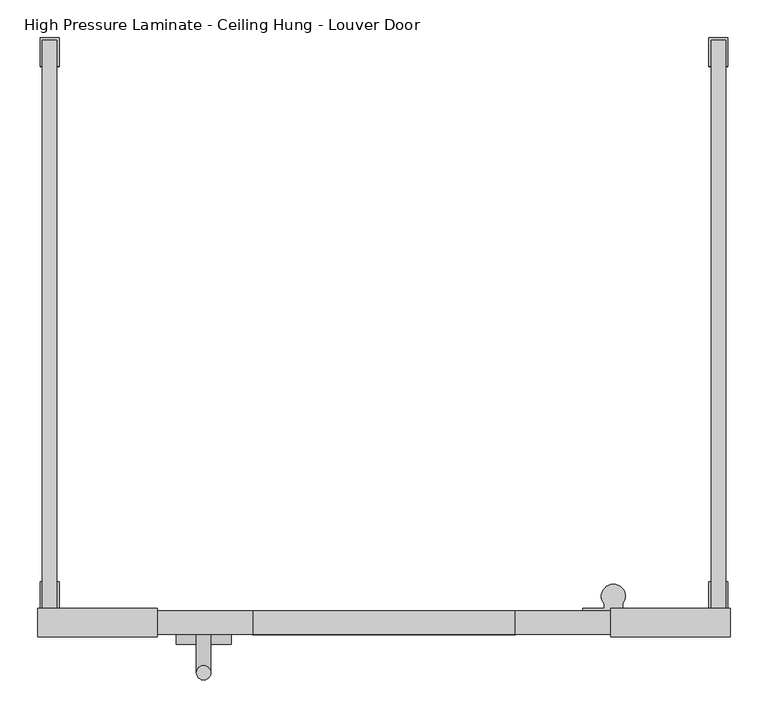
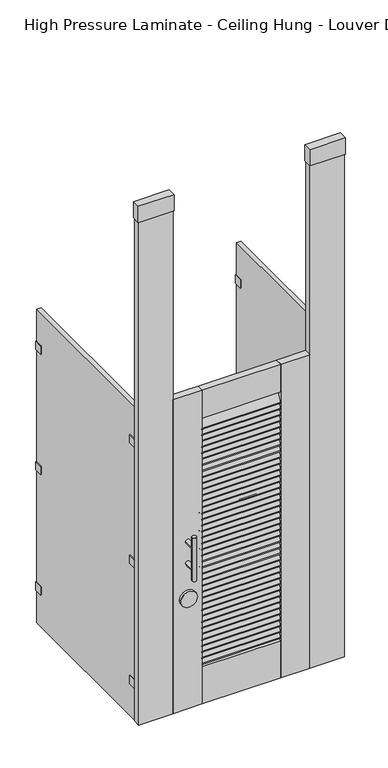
"""IFC4 building model written with IfcOpenShell, lengths in millimetres: proxy geometry, Toilet-Partition_Ironwood-Mfg_High-Pressure-Laminate : High Pressure Laminate - Ceiling Hung - Louver Door."""

from ifc_helpers import new_model, si_unit, point, frame, frame_2d, origin, place, context, project, spatial, polyline, circle_curve, ellipse_curve, trimmed, segment, composite_curve, outline, extrude, source, transform, mapped, element, save
from ifc_brep_helpers import plane_surface, cylinder_surface, advanced_brep


def high_pressure_laminate_ceiling_hung_louver_door_53e2b2da(model_context):
    return source(origin(), model_context, "Body", "SolidModel", [
        extrude(outline(polyline([(542.925, -796.925), (542.925, -758.825), (701.675, -758.825), (701.675, -796.925), (542.925, -796.925)])), frame((0.0, 0.0, 2667.0), z_axis=(0.0, 0.0, 1.0), x_axis=(1.0, 0.0, 0.0)), (0.0, 0.0, 1.0), 76.1999999),
        extrude(outline(polyline([(0.0, 152.4), (31.75, 152.4), (31.75, 0.0), (0.0, 0.0), (0.0, 152.4)])), frame((546.1, -762.0, 304.8), z_axis=(1.181277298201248e-12, 0.0, 1.0), x_axis=(0.0, -1.0, 0.0)), (0.0, 0.0, 1.0), 2362.2),
        extrude(outline(polyline([(-60.325, -796.925), (-219.075, -796.925), (-219.075, -758.825), (-60.325, -758.825), (-60.325, -796.925)])), frame((0.0, 0.0, 2667.0), z_axis=(0.0, 0.0, 1.0), x_axis=(1.0, 0.0, 0.0)), (0.0, 0.0, 1.0), 76.1999999),
        extrude(outline(polyline([(0.0, -152.4), (0.0, 0.0), (31.75, 0.0), (31.75, -152.4), (0.0, -152.4)])), frame((-63.5, -762.0, 304.8), z_axis=(-1.1812772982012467e-12, 0.0, 1.0), x_axis=(0.0, -1.0, 0.0)), (0.0, 0.0, 1.0), 2362.2),
        extrude(outline(composite_curve([segment(polyline([(-764.1333548, 1605.1687721), (-783.2892514, 1565.8933636)]), True, "CONTINUOUS"), segment(trimmed(circle_curve(frame_2d((-787.5697581, 1567.9811062)), 4.7625), [point((-783.2892514, 1565.8933636))], [point((-791.8502647, 1570.0688488))], False, "CARTESIAN"), True, "CONTINUOUS"), segment(polyline([(-791.8502647, 1570.0688488), (-772.6943681, 1609.3442573)]), True, "CONTINUOUS"), segment(trimmed(circle_curve(frame_2d((-768.4138614, 1607.2565147)), 4.7625), [point((-772.6943681, 1609.3442573))], [point((-764.1333548, 1605.1687721))], False, "CARTESIAN"), True, "CONTINUOUS")], self_intersect=False)), frame((66.675, 0.0, 0.0), z_axis=(1.0, 0.0, 0.0), x_axis=(0.0, 1.0, 0.0)), (0.0, 0.0, 1.0), 349.25),
        extrude(outline(composite_curve([segment(polyline([(-764.1333548, 1576.8525178), (-783.2892514, 1537.5771093)]), True, "CONTINUOUS"), segment(trimmed(circle_curve(frame_2d((-787.5697581, 1539.6648519)), 4.7625), [point((-783.2892514, 1537.5771093))], [point((-791.8502647, 1541.7525944))], False, "CARTESIAN"), True, "CONTINUOUS"), segment(polyline([(-791.8502647, 1541.7525944), (-772.6943681, 1581.0280029)]), True, "CONTINUOUS"), segment(trimmed(circle_curve(frame_2d((-768.4138614, 1578.9402604)), 4.7625), [point((-772.6943681, 1581.0280029))], [point((-764.1333548, 1576.8525178))], False, "CARTESIAN"), True, "CONTINUOUS")], self_intersect=False)), frame((66.675, 0.0, 0.0), z_axis=(1.0, 0.0, 0.0), x_axis=(0.0, 1.0, 0.0)), (0.0, 0.0, 1.0), 349.25),
        extrude(outline(composite_curve([segment(polyline([(-764.1333548, 1548.5362634), (-783.2892514, 1509.2608549)]), True, "CONTINUOUS"), segment(trimmed(circle_curve(frame_2d((-787.5697581, 1511.3485975)), 4.7625), [point((-783.2892514, 1509.2608549))], [point((-791.8502647, 1513.4363401))], False, "CARTESIAN"), True, "CONTINUOUS"), segment(polyline([(-791.8502647, 1513.4363401), (-772.6943681, 1552.7117486)]), True, "CONTINUOUS"), segment(trimmed(circle_curve(frame_2d((-768.4138614, 1550.624006)), 4.7625), [point((-772.6943681, 1552.7117486))], [point((-764.1333548, 1548.5362634))], False, "CARTESIAN"), True, "CONTINUOUS")], self_intersect=False)), frame((66.675, 0.0, 0.0), z_axis=(1.0, 0.0, 0.0), x_axis=(0.0, 1.0, 0.0)), (0.0, 0.0, 1.0), 349.25),
        extrude(outline(composite_curve([segment(polyline([(-764.1333548, 1520.220009), (-783.2892514, 1480.9446005)]), True, "CONTINUOUS"), segment(trimmed(circle_curve(frame_2d((-787.5697581, 1483.0323431)), 4.7625), [point((-783.2892514, 1480.9446005))], [point((-791.8502647, 1485.1200857))], False, "CARTESIAN"), True, "CONTINUOUS"), segment(polyline([(-791.8502647, 1485.1200857), (-772.6943681, 1524.3954942)]), True, "CONTINUOUS"), segment(trimmed(circle_curve(frame_2d((-768.4138614, 1522.3077516)), 4.7625), [point((-772.6943681, 1524.3954942))], [point((-764.1333548, 1520.220009))], False, "CARTESIAN"), True, "CONTINUOUS")], self_intersect=False)), frame((66.675, 0.0, 0.0), z_axis=(1.0, 0.0, 0.0), x_axis=(0.0, 1.0, 0.0)), (0.0, 0.0, 1.0), 349.25),
        extrude(outline(composite_curve([segment(polyline([(-764.1333548, 1491.9037547), (-783.2892514, 1452.6283462)]), True, "CONTINUOUS"), segment(trimmed(circle_curve(frame_2d((-787.5697581, 1454.7160888)), 4.7625), [point((-783.2892514, 1452.6283462))], [point((-791.8502647, 1456.8038313))], False, "CARTESIAN"), True, "CONTINUOUS"), segment(polyline([(-791.8502647, 1456.8038313), (-772.6943681, 1496.0792398)]), True, "CONTINUOUS"), segment(trimmed(circle_curve(frame_2d((-768.4138614, 1493.9914973)), 4.7625), [point((-772.6943681, 1496.0792398))], [point((-764.1333548, 1491.9037547))], False, "CARTESIAN"), True, "CONTINUOUS")], self_intersect=False)), frame((66.675, 0.0, 0.0), z_axis=(1.0, 0.0, 0.0), x_axis=(0.0, 1.0, 0.0)), (0.0, 0.0, 1.0), 349.25),
        extrude(outline(composite_curve([segment(polyline([(-764.1333548, 1463.5875003), (-783.2892514, 1424.3120918)]), True, "CONTINUOUS"), segment(trimmed(circle_curve(frame_2d((-787.5697581, 1426.3998344)), 4.7625), [point((-783.2892514, 1424.3120918))], [point((-791.8502647, 1428.487577))], False, "CARTESIAN"), True, "CONTINUOUS"), segment(polyline([(-791.8502647, 1428.487577), (-772.6943681, 1467.7629855)]), True, "CONTINUOUS"), segment(trimmed(circle_curve(frame_2d((-768.4138614, 1465.6752429)), 4.7625), [point((-772.6943681, 1467.7629855))], [point((-764.1333548, 1463.5875003))], False, "CARTESIAN"), True, "CONTINUOUS")], self_intersect=False)), frame((66.675, 0.0, 0.0), z_axis=(1.0, 0.0, 0.0), x_axis=(0.0, 1.0, 0.0)), (0.0, 0.0, 1.0), 349.25),
        extrude(outline(composite_curve([segment(polyline([(-764.1333548, 1435.2712459), (-783.2892514, 1395.9958374)]), True, "CONTINUOUS"), segment(trimmed(circle_curve(frame_2d((-787.5697581, 1398.08358)), 4.7625), [point((-783.2892514, 1395.9958374))], [point((-791.8502647, 1400.1713226))], False, "CARTESIAN"), True, "CONTINUOUS"), segment(polyline([(-791.8502647, 1400.1713226), (-772.6943681, 1439.4467311)]), True, "CONTINUOUS"), segment(trimmed(circle_curve(frame_2d((-768.4138614, 1437.3589885)), 4.7625), [point((-772.6943681, 1439.4467311))], [point((-764.1333548, 1435.2712459))], False, "CARTESIAN"), True, "CONTINUOUS")], self_intersect=False)), frame((66.675, 0.0, 0.0), z_axis=(1.0, 0.0, 0.0), x_axis=(0.0, 1.0, 0.0)), (0.0, 0.0, 1.0), 349.25),
        extrude(outline(composite_curve([segment(polyline([(-764.1333548, 1406.9549916), (-783.2892514, 1367.6795831)]), True, "CONTINUOUS"), segment(trimmed(circle_curve(frame_2d((-787.5697581, 1369.7673257)), 4.7625), [point((-783.2892514, 1367.6795831))], [point((-791.8502647, 1371.8550682))], False, "CARTESIAN"), True, "CONTINUOUS"), segment(polyline([(-791.8502647, 1371.8550682), (-772.6943681, 1411.1304767)]), True, "CONTINUOUS"), segment(trimmed(circle_curve(frame_2d((-768.4138614, 1409.0427342)), 4.7625), [point((-772.6943681, 1411.1304767))], [point((-764.1333548, 1406.9549916))], False, "CARTESIAN"), True, "CONTINUOUS")], self_intersect=False)), frame((66.675, 0.0, 0.0), z_axis=(1.0, 0.0, 0.0), x_axis=(0.0, 1.0, 0.0)), (0.0, 0.0, 1.0), 349.25),
        extrude(outline(composite_curve([segment(polyline([(-764.1333548, 1378.6387372), (-783.2892514, 1339.3633287)]), True, "CONTINUOUS"), segment(trimmed(circle_curve(frame_2d((-787.5697581, 1341.4510713)), 4.7625), [point((-783.2892514, 1339.3633287))], [point((-791.8502647, 1343.5388139))], False, "CARTESIAN"), True, "CONTINUOUS"), segment(polyline([(-791.8502647, 1343.5388139), (-772.6943681, 1382.8142224)]), True, "CONTINUOUS"), segment(trimmed(circle_curve(frame_2d((-768.4138614, 1380.7264798)), 4.7625), [point((-772.6943681, 1382.8142224))], [point((-764.1333548, 1378.6387372))], False, "CARTESIAN"), True, "CONTINUOUS")], self_intersect=False)), frame((66.675, 0.0, 0.0), z_axis=(1.0, 0.0, 0.0), x_axis=(0.0, 1.0, 0.0)), (0.0, 0.0, 1.0), 349.25),
        extrude(outline(composite_curve([segment(polyline([(-764.1333548, 1350.3224828), (-783.2892514, 1311.0470743)]), True, "CONTINUOUS"), segment(trimmed(circle_curve(frame_2d((-787.5697581, 1313.1348169)), 4.7625), [point((-783.2892514, 1311.0470743))], [point((-791.8502647, 1315.2225595))], False, "CARTESIAN"), True, "CONTINUOUS"), segment(polyline([(-791.8502647, 1315.2225595), (-772.6943681, 1354.497968)]), True, "CONTINUOUS"), segment(trimmed(circle_curve(frame_2d((-768.4138614, 1352.4102254)), 4.7625), [point((-772.6943681, 1354.497968))], [point((-764.1333548, 1350.3224828))], False, "CARTESIAN"), True, "CONTINUOUS")], self_intersect=False)), frame((66.675, 0.0, 0.0), z_axis=(1.0, 0.0, 0.0), x_axis=(0.0, 1.0, 0.0)), (0.0, 0.0, 1.0), 349.25),
        extrude(outline(composite_curve([segment(polyline([(-764.1333548, 1322.0062285), (-783.2892514, 1282.73082)]), True, "CONTINUOUS"), segment(trimmed(circle_curve(frame_2d((-787.5697581, 1284.8185626)), 4.7625), [point((-783.2892514, 1282.73082))], [point((-791.8502647, 1286.9063052))], False, "CARTESIAN"), True, "CONTINUOUS"), segment(polyline([(-791.8502647, 1286.9063052), (-772.6943681, 1326.1817137)]), True, "CONTINUOUS"), segment(trimmed(circle_curve(frame_2d((-768.4138614, 1324.0939711)), 4.7625), [point((-772.6943681, 1326.1817137))], [point((-764.1333548, 1322.0062285))], False, "CARTESIAN"), True, "CONTINUOUS")], self_intersect=False)), frame((66.675, 0.0, 0.0), z_axis=(1.0, 0.0, 0.0), x_axis=(0.0, 1.0, 0.0)), (0.0, 0.0, 1.0), 349.25),
        extrude(outline(composite_curve([segment(polyline([(-764.1333548, 1293.6899741), (-783.2892514, 1254.4145656)]), True, "CONTINUOUS"), segment(trimmed(circle_curve(frame_2d((-787.5697581, 1256.5023082)), 4.7625), [point((-783.2892514, 1254.4145656))], [point((-791.8502647, 1258.5900508))], False, "CARTESIAN"), True, "CONTINUOUS"), segment(polyline([(-791.8502647, 1258.5900508), (-772.6943681, 1297.8654593)]), True, "CONTINUOUS"), segment(trimmed(circle_curve(frame_2d((-768.4138614, 1295.7777167)), 4.7625), [point((-772.6943681, 1297.8654593))], [point((-764.1333548, 1293.6899741))], False, "CARTESIAN"), True, "CONTINUOUS")], self_intersect=False)), frame((66.675, 0.0, 0.0), z_axis=(1.0, 0.0, 0.0), x_axis=(0.0, 1.0, 0.0)), (0.0, 0.0, 1.0), 349.25),
        extrude(outline(composite_curve([segment(polyline([(-764.1333548, 1265.3737197), (-783.2892514, 1226.0983112)]), True, "CONTINUOUS"), segment(trimmed(circle_curve(frame_2d((-787.5697581, 1228.1860538)), 4.7625), [point((-783.2892514, 1226.0983112))], [point((-791.8502647, 1230.2737964))], False, "CARTESIAN"), True, "CONTINUOUS"), segment(polyline([(-791.8502647, 1230.2737964), (-772.6943681, 1269.5492049)]), True, "CONTINUOUS"), segment(trimmed(circle_curve(frame_2d((-768.4138614, 1267.4614623)), 4.7625), [point((-772.6943681, 1269.5492049))], [point((-764.1333548, 1265.3737197))], False, "CARTESIAN"), True, "CONTINUOUS")], self_intersect=False)), frame((66.675, 0.0, 0.0), z_axis=(1.0, 0.0, 0.0), x_axis=(0.0, 1.0, 0.0)), (0.0, 0.0, 1.0), 349.25),
        extrude(outline(composite_curve([segment(polyline([(-764.1333548, 1237.0574654), (-783.2892514, 1197.7820569)]), True, "CONTINUOUS"), segment(trimmed(circle_curve(frame_2d((-787.5697581, 1199.8697995)), 4.7625), [point((-783.2892514, 1197.7820569))], [point((-791.8502647, 1201.9575421))], False, "CARTESIAN"), True, "CONTINUOUS"), segment(polyline([(-791.8502647, 1201.9575421), (-772.6943681, 1241.2329506)]), True, "CONTINUOUS"), segment(trimmed(circle_curve(frame_2d((-768.4138614, 1239.145208)), 4.7625), [point((-772.6943681, 1241.2329506))], [point((-764.1333548, 1237.0574654))], False, "CARTESIAN"), True, "CONTINUOUS")], self_intersect=False)), frame((66.675, 0.0, 0.0), z_axis=(1.0, 0.0, 0.0), x_axis=(0.0, 1.0, 0.0)), (0.0, 0.0, 1.0), 349.25),
        extrude(outline(composite_curve([segment(polyline([(-764.1333548, 1208.741211), (-783.2892514, 1169.4658025)]), True, "CONTINUOUS"), segment(trimmed(circle_curve(frame_2d((-787.5697581, 1171.5535451)), 4.7625), [point((-783.2892514, 1169.4658025))], [point((-791.8502647, 1173.6412877))], False, "CARTESIAN"), True, "CONTINUOUS"), segment(polyline([(-791.8502647, 1173.6412877), (-772.6943681, 1212.9166962)]), True, "CONTINUOUS"), segment(trimmed(circle_curve(frame_2d((-768.4138614, 1210.8289536)), 4.7625), [point((-772.6943681, 1212.9166962))], [point((-764.1333548, 1208.741211))], False, "CARTESIAN"), True, "CONTINUOUS")], self_intersect=False)), frame((66.675, 0.0, 0.0), z_axis=(1.0, 0.0, 0.0), x_axis=(0.0, 1.0, 0.0)), (0.0, 0.0, 1.0), 349.25),
        extrude(outline(composite_curve([segment(polyline([(-764.1333548, 1180.4249567), (-783.2892514, 1141.1495482)]), True, "CONTINUOUS"), segment(trimmed(circle_curve(frame_2d((-787.5697581, 1143.2372907)), 4.7625), [point((-783.2892514, 1141.1495482))], [point((-791.8502647, 1145.3250333))], False, "CARTESIAN"), True, "CONTINUOUS"), segment(polyline([(-791.8502647, 1145.3250333), (-772.6943681, 1184.6004418)]), True, "CONTINUOUS"), segment(trimmed(circle_curve(frame_2d((-768.4138614, 1182.5126992)), 4.7625), [point((-772.6943681, 1184.6004418))], [point((-764.1333548, 1180.4249567))], False, "CARTESIAN"), True, "CONTINUOUS")], self_intersect=False)), frame((66.675, 0.0, 0.0), z_axis=(1.0, 0.0, 0.0), x_axis=(0.0, 1.0, 0.0)), (0.0, 0.0, 1.0), 349.25),
        extrude(outline(composite_curve([segment(polyline([(-764.1333548, 1152.1087023), (-783.2892514, 1112.8332938)]), True, "CONTINUOUS"), segment(trimmed(circle_curve(frame_2d((-787.5697581, 1114.9210364)), 4.7625), [point((-783.2892514, 1112.8332938))], [point((-791.8502647, 1117.008779))], False, "CARTESIAN"), True, "CONTINUOUS"), segment(polyline([(-791.8502647, 1117.008779), (-772.6943681, 1156.2841875)]), True, "CONTINUOUS"), segment(trimmed(circle_curve(frame_2d((-768.4138614, 1154.1964449)), 4.7625), [point((-772.6943681, 1156.2841875))], [point((-764.1333548, 1152.1087023))], False, "CARTESIAN"), True, "CONTINUOUS")], self_intersect=False)), frame((66.675, 0.0, 0.0), z_axis=(1.0, 0.0, 0.0), x_axis=(0.0, 1.0, 0.0)), (0.0, 0.0, 1.0), 349.25),
        extrude(outline(composite_curve([segment(polyline([(-764.1333548, 1123.7924479), (-783.2892514, 1084.5170394)]), True, "CONTINUOUS"), segment(trimmed(circle_curve(frame_2d((-787.5697581, 1086.604782)), 4.7625), [point((-783.2892514, 1084.5170394))], [point((-791.8502647, 1088.6925246))], False, "CARTESIAN"), True, "CONTINUOUS"), segment(polyline([(-791.8502647, 1088.6925246), (-772.6943681, 1127.9679331)]), True, "CONTINUOUS"), segment(trimmed(circle_curve(frame_2d((-768.4138614, 1125.8801905)), 4.7625), [point((-772.6943681, 1127.9679331))], [point((-764.1333548, 1123.7924479))], False, "CARTESIAN"), True, "CONTINUOUS")], self_intersect=False)), frame((66.675, 0.0, 0.0), z_axis=(1.0, 0.0, 0.0), x_axis=(0.0, 1.0, 0.0)), (0.0, 0.0, 1.0), 349.25),
        extrude(outline(composite_curve([segment(polyline([(-764.1333548, 1095.4761936), (-783.2892514, 1056.2007851)]), True, "CONTINUOUS"), segment(trimmed(circle_curve(frame_2d((-787.5697581, 1058.2885276)), 4.7625), [point((-783.2892514, 1056.2007851))], [point((-791.8502647, 1060.3762702))], False, "CARTESIAN"), True, "CONTINUOUS"), segment(polyline([(-791.8502647, 1060.3762702), (-772.6943681, 1099.6516787)]), True, "CONTINUOUS"), segment(trimmed(circle_curve(frame_2d((-768.4138614, 1097.5639361)), 4.7625), [point((-772.6943681, 1099.6516787))], [point((-764.1333548, 1095.4761936))], False, "CARTESIAN"), True, "CONTINUOUS")], self_intersect=False)), frame((66.675, 0.0, 0.0), z_axis=(1.0, 0.0, 0.0), x_axis=(0.0, 1.0, 0.0)), (0.0, 0.0, 1.0), 349.25),
        extrude(outline(composite_curve([segment(polyline([(-764.1333548, 1067.1599392), (-783.2892514, 1027.8845307)]), True, "CONTINUOUS"), segment(trimmed(circle_curve(frame_2d((-787.5697581, 1029.9722733)), 4.7625), [point((-783.2892514, 1027.8845307))], [point((-791.8502647, 1032.0600159))], False, "CARTESIAN"), True, "CONTINUOUS"), segment(polyline([(-791.8502647, 1032.0600159), (-772.6943681, 1071.3354244)]), True, "CONTINUOUS"), segment(trimmed(circle_curve(frame_2d((-768.4138614, 1069.2476818)), 4.7625), [point((-772.6943681, 1071.3354244))], [point((-764.1333548, 1067.1599392))], False, "CARTESIAN"), True, "CONTINUOUS")], self_intersect=False)), frame((66.675, 0.0, 0.0), z_axis=(1.0, 0.0, 0.0), x_axis=(0.0, 1.0, 0.0)), (0.0, 0.0, 1.0), 349.25),
        extrude(outline(composite_curve([segment(polyline([(-764.1333548, 1038.8436848), (-783.2892514, 999.5682763)]), True, "CONTINUOUS"), segment(trimmed(circle_curve(frame_2d((-787.5697581, 1001.6560189)), 4.7625), [point((-783.2892514, 999.5682763))], [point((-791.8502647, 1003.7437615))], False, "CARTESIAN"), True, "CONTINUOUS"), segment(polyline([(-791.8502647, 1003.7437615), (-772.6943681, 1043.01917)]), True, "CONTINUOUS"), segment(trimmed(circle_curve(frame_2d((-768.4138614, 1040.9314274)), 4.7625), [point((-772.6943681, 1043.01917))], [point((-764.1333548, 1038.8436848))], False, "CARTESIAN"), True, "CONTINUOUS")], self_intersect=False)), frame((66.675, 0.0, 0.0), z_axis=(1.0, 0.0, 0.0), x_axis=(0.0, 1.0, 0.0)), (0.0, 0.0, 1.0), 349.25),
        extrude(outline(composite_curve([segment(polyline([(-764.1333548, 1010.5274305), (-783.2892514, 971.252022)]), True, "CONTINUOUS"), segment(trimmed(circle_curve(frame_2d((-787.5697581, 973.3397645)), 4.7625), [point((-783.2892514, 971.252022))], [point((-791.8502647, 975.4275071))], False, "CARTESIAN"), True, "CONTINUOUS"), segment(polyline([(-791.8502647, 975.4275071), (-772.6943681, 1014.7029156)]), True, "CONTINUOUS"), segment(trimmed(circle_curve(frame_2d((-768.4138614, 1012.615173)), 4.7625), [point((-772.6943681, 1014.7029156))], [point((-764.1333548, 1010.5274305))], False, "CARTESIAN"), True, "CONTINUOUS")], self_intersect=False)), frame((66.675, 0.0, 0.0), z_axis=(1.0, 0.0, 0.0), x_axis=(0.0, 1.0, 0.0)), (0.0, 0.0, 1.0), 349.25),
        extrude(outline(composite_curve([segment(polyline([(-764.1333548, 982.2111761), (-783.2892514, 942.9357676)]), True, "CONTINUOUS"), segment(trimmed(circle_curve(frame_2d((-787.5697581, 945.0235102)), 4.7625), [point((-783.2892514, 942.9357676))], [point((-791.8502647, 947.1112528))], False, "CARTESIAN"), True, "CONTINUOUS"), segment(polyline([(-791.8502647, 947.1112528), (-772.6943681, 986.3866613)]), True, "CONTINUOUS"), segment(trimmed(circle_curve(frame_2d((-768.4138614, 984.2989187)), 4.7625), [point((-772.6943681, 986.3866613))], [point((-764.1333548, 982.2111761))], False, "CARTESIAN"), True, "CONTINUOUS")], self_intersect=False)), frame((66.675, 0.0, 0.0), z_axis=(1.0, 0.0, 0.0), x_axis=(0.0, 1.0, 0.0)), (0.0, 0.0, 1.0), 349.25),
        extrude(outline(composite_curve([segment(polyline([(-764.1333548, 953.8949217), (-783.2892514, 914.6195132)]), True, "CONTINUOUS"), segment(trimmed(circle_curve(frame_2d((-787.5697581, 916.7072558)), 4.7625), [point((-783.2892514, 914.6195132))], [point((-791.8502647, 918.7949984))], False, "CARTESIAN"), True, "CONTINUOUS"), segment(polyline([(-791.8502647, 918.7949984), (-772.6943681, 958.0704069)]), True, "CONTINUOUS"), segment(trimmed(circle_curve(frame_2d((-768.4138614, 955.9826643)), 4.7625), [point((-772.6943681, 958.0704069))], [point((-764.1333548, 953.8949217))], False, "CARTESIAN"), True, "CONTINUOUS")], self_intersect=False)), frame((66.675, 0.0, 0.0), z_axis=(1.0, 0.0, 0.0), x_axis=(0.0, 1.0, 0.0)), (0.0, 0.0, 1.0), 349.25),
        extrude(outline(composite_curve([segment(polyline([(-764.1333548, 925.5786674), (-783.2892514, 886.3032589)]), True, "CONTINUOUS"), segment(trimmed(circle_curve(frame_2d((-787.5697581, 888.3910014)), 4.7625), [point((-783.2892514, 886.3032589))], [point((-791.8502647, 890.478744))], False, "CARTESIAN"), True, "CONTINUOUS"), segment(polyline([(-791.8502647, 890.478744), (-772.6943681, 929.7541525)]), True, "CONTINUOUS"), segment(trimmed(circle_curve(frame_2d((-768.4138614, 927.6664099)), 4.7625), [point((-772.6943681, 929.7541525))], [point((-764.1333548, 925.5786674))], False, "CARTESIAN"), True, "CONTINUOUS")], self_intersect=False)), frame((66.675, 0.0, 0.0), z_axis=(1.0, 0.0, 0.0), x_axis=(0.0, 1.0, 0.0)), (0.0, 0.0, 1.0), 349.25),
        extrude(outline(composite_curve([segment(polyline([(-764.1333548, 897.262413), (-783.2892514, 857.9870045)]), True, "CONTINUOUS"), segment(trimmed(circle_curve(frame_2d((-787.5697581, 860.0747471)), 4.7625), [point((-783.2892514, 857.9870045))], [point((-791.8502647, 862.1624897))], False, "CARTESIAN"), True, "CONTINUOUS"), segment(polyline([(-791.8502647, 862.1624897), (-772.6943681, 901.4378982)]), True, "CONTINUOUS"), segment(trimmed(circle_curve(frame_2d((-768.4138614, 899.3501556)), 4.7625), [point((-772.6943681, 901.4378982))], [point((-764.1333548, 897.262413))], False, "CARTESIAN"), True, "CONTINUOUS")], self_intersect=False)), frame((66.675, 0.0, 0.0), z_axis=(1.0, 0.0, 0.0), x_axis=(0.0, 1.0, 0.0)), (0.0, 0.0, 1.0), 349.25),
        extrude(outline(composite_curve([segment(polyline([(-764.1333548, 868.9461586), (-783.2892514, 829.6707501)]), True, "CONTINUOUS"), segment(trimmed(circle_curve(frame_2d((-787.5697581, 831.7584927)), 4.7625), [point((-783.2892514, 829.6707501))], [point((-791.8502647, 833.8462353))], False, "CARTESIAN"), True, "CONTINUOUS"), segment(polyline([(-791.8502647, 833.8462353), (-772.6943681, 873.1216438)]), True, "CONTINUOUS"), segment(trimmed(circle_curve(frame_2d((-768.4138614, 871.0339012)), 4.7625), [point((-772.6943681, 873.1216438))], [point((-764.1333548, 868.9461586))], False, "CARTESIAN"), True, "CONTINUOUS")], self_intersect=False)), frame((66.675, 0.0, 0.0), z_axis=(1.0, 0.0, 0.0), x_axis=(0.0, 1.0, 0.0)), (0.0, 0.0, 1.0), 349.25),
        extrude(outline(composite_curve([segment(polyline([(-764.1333548, 840.6299043), (-783.2892514, 801.3544958)]), True, "CONTINUOUS"), segment(trimmed(circle_curve(frame_2d((-787.5697581, 803.4422384)), 4.7625), [point((-783.2892514, 801.3544958))], [point((-791.8502647, 805.5299809))], False, "CARTESIAN"), True, "CONTINUOUS"), segment(polyline([(-791.8502647, 805.5299809), (-772.6943681, 844.8053894)]), True, "CONTINUOUS"), segment(trimmed(circle_curve(frame_2d((-768.4138614, 842.7176469)), 4.7625), [point((-772.6943681, 844.8053894))], [point((-764.1333548, 840.6299043))], False, "CARTESIAN"), True, "CONTINUOUS")], self_intersect=False)), frame((66.675, 0.0, 0.0), z_axis=(1.0, 0.0, 0.0), x_axis=(0.0, 1.0, 0.0)), (0.0, 0.0, 1.0), 349.25),
        extrude(outline(composite_curve([segment(polyline([(-764.1333548, 812.3136499), (-783.2892514, 773.0382414)]), True, "CONTINUOUS"), segment(trimmed(circle_curve(frame_2d((-787.5697581, 775.125984)), 4.7625), [point((-783.2892514, 773.0382414))], [point((-791.8502647, 777.2137266))], False, "CARTESIAN"), True, "CONTINUOUS"), segment(polyline([(-791.8502647, 777.2137266), (-772.6943681, 816.4891351)]), True, "CONTINUOUS"), segment(trimmed(circle_curve(frame_2d((-768.4138614, 814.4013925)), 4.7625), [point((-772.6943681, 816.4891351))], [point((-764.1333548, 812.3136499))], False, "CARTESIAN"), True, "CONTINUOUS")], self_intersect=False)), frame((66.675, 0.0, 0.0), z_axis=(1.0, 0.0, 0.0), x_axis=(0.0, 1.0, 0.0)), (0.0, 0.0, 1.0), 349.25),
        extrude(outline(composite_curve([segment(polyline([(-764.1333548, 783.9973955), (-783.2892514, 744.721987)]), True, "CONTINUOUS"), segment(trimmed(circle_curve(frame_2d((-787.5697581, 746.8097296)), 4.7625), [point((-783.2892514, 744.721987))], [point((-791.8502647, 748.8974722))], False, "CARTESIAN"), True, "CONTINUOUS"), segment(polyline([(-791.8502647, 748.8974722), (-772.6943681, 788.1728807)]), True, "CONTINUOUS"), segment(trimmed(circle_curve(frame_2d((-768.4138614, 786.0851381)), 4.7625), [point((-772.6943681, 788.1728807))], [point((-764.1333548, 783.9973955))], False, "CARTESIAN"), True, "CONTINUOUS")], self_intersect=False)), frame((66.675, 0.0, 0.0), z_axis=(1.0, 0.0, 0.0), x_axis=(0.0, 1.0, 0.0)), (0.0, 0.0, 1.0), 349.25),
        extrude(outline(composite_curve([segment(polyline([(-764.1333548, 755.6811412), (-783.2892514, 716.4057327)]), True, "CONTINUOUS"), segment(trimmed(circle_curve(frame_2d((-787.5697581, 718.4934753)), 4.7625), [point((-783.2892514, 716.4057327))], [point((-791.8502647, 720.5812178))], False, "CARTESIAN"), True, "CONTINUOUS"), segment(polyline([(-791.8502647, 720.5812178), (-772.6943681, 759.8566263)]), True, "CONTINUOUS"), segment(trimmed(circle_curve(frame_2d((-768.4138614, 757.7688838)), 4.7625), [point((-772.6943681, 759.8566263))], [point((-764.1333548, 755.6811412))], False, "CARTESIAN"), True, "CONTINUOUS")], self_intersect=False)), frame((66.675, 0.0, 0.0), z_axis=(1.0, 0.0, 0.0), x_axis=(0.0, 1.0, 0.0)), (0.0, 0.0, 1.0), 349.25),
        extrude(outline(composite_curve([segment(polyline([(-764.1333548, 727.3648868), (-783.2892514, 688.0894783)]), True, "CONTINUOUS"), segment(trimmed(circle_curve(frame_2d((-787.5697581, 690.1772209)), 4.7625), [point((-783.2892514, 688.0894783))], [point((-791.8502647, 692.2649635))], False, "CARTESIAN"), True, "CONTINUOUS"), segment(polyline([(-791.8502647, 692.2649635), (-772.6943681, 731.540372)]), True, "CONTINUOUS"), segment(trimmed(circle_curve(frame_2d((-768.4138614, 729.4526294)), 4.7625), [point((-772.6943681, 731.540372))], [point((-764.1333548, 727.3648868))], False, "CARTESIAN"), True, "CONTINUOUS")], self_intersect=False)), frame((66.675, 0.0, 0.0), z_axis=(1.0, 0.0, 0.0), x_axis=(0.0, 1.0, 0.0)), (0.0, 0.0, 1.0), 349.25),
        extrude(outline(composite_curve([segment(polyline([(-764.1333548, 699.0486324), (-783.2892514, 659.7732239)]), True, "CONTINUOUS"), segment(trimmed(circle_curve(frame_2d((-787.5697581, 661.8609665)), 4.7625), [point((-783.2892514, 659.7732239))], [point((-791.8502647, 663.9487091))], False, "CARTESIAN"), True, "CONTINUOUS"), segment(polyline([(-791.8502647, 663.9487091), (-772.6943681, 703.2241176)]), True, "CONTINUOUS"), segment(trimmed(circle_curve(frame_2d((-768.4138614, 701.136375)), 4.7625), [point((-772.6943681, 703.2241176))], [point((-764.1333548, 699.0486324))], False, "CARTESIAN"), True, "CONTINUOUS")], self_intersect=False)), frame((66.675, 0.0, 0.0), z_axis=(1.0, 0.0, 0.0), x_axis=(0.0, 1.0, 0.0)), (0.0, 0.0, 1.0), 349.25),
        extrude(outline(composite_curve([segment(polyline([(-764.1333548, 670.7323781), (-783.2892514, 631.4569696)]), True, "CONTINUOUS"), segment(trimmed(circle_curve(frame_2d((-787.5697581, 633.5447122)), 4.7625), [point((-783.2892514, 631.4569696))], [point((-791.8502647, 635.6324547))], False, "CARTESIAN"), True, "CONTINUOUS"), segment(polyline([(-791.8502647, 635.6324547), (-772.6943681, 674.9078632)]), True, "CONTINUOUS"), segment(trimmed(circle_curve(frame_2d((-768.4138614, 672.8201207)), 4.7625), [point((-772.6943681, 674.9078632))], [point((-764.1333548, 670.7323781))], False, "CARTESIAN"), True, "CONTINUOUS")], self_intersect=False)), frame((66.675, 0.0, 0.0), z_axis=(1.0, 0.0, 0.0), x_axis=(0.0, 1.0, 0.0)), (0.0, 0.0, 1.0), 349.25),
        extrude(outline(composite_curve([segment(polyline([(-764.1333548, 642.4161237), (-783.2892514, 603.1407152)]), True, "CONTINUOUS"), segment(trimmed(circle_curve(frame_2d((-787.5697581, 605.2284578)), 4.7625), [point((-783.2892514, 603.1407152))], [point((-791.8502647, 607.3162004))], False, "CARTESIAN"), True, "CONTINUOUS"), segment(polyline([(-791.8502647, 607.3162004), (-772.6943681, 646.5916089)]), True, "CONTINUOUS"), segment(trimmed(circle_curve(frame_2d((-768.4138614, 644.5038663)), 4.7625), [point((-772.6943681, 646.5916089))], [point((-764.1333548, 642.4161237))], False, "CARTESIAN"), True, "CONTINUOUS")], self_intersect=False)), frame((66.675, 0.0, 0.0), z_axis=(1.0, 0.0, 0.0), x_axis=(0.0, 1.0, 0.0)), (0.0, 0.0, 1.0), 349.25),
        extrude(outline(composite_curve([segment(polyline([(-764.1333548, 614.0998693), (-783.2892514, 574.8244608)]), True, "CONTINUOUS"), segment(trimmed(circle_curve(frame_2d((-787.5697581, 576.9122034)), 4.7625), [point((-783.2892514, 574.8244608))], [point((-791.8502647, 578.999946))], False, "CARTESIAN"), True, "CONTINUOUS"), segment(polyline([(-791.8502647, 578.999946), (-772.6943681, 618.2753545)]), True, "CONTINUOUS"), segment(trimmed(circle_curve(frame_2d((-768.4138614, 616.1876119)), 4.7625), [point((-772.6943681, 618.2753545))], [point((-764.1333548, 614.0998693))], False, "CARTESIAN"), True, "CONTINUOUS")], self_intersect=False)), frame((66.675, 0.0, 0.0), z_axis=(1.0, 0.0, 0.0), x_axis=(0.0, 1.0, 0.0)), (0.0, 0.0, 1.0), 349.25),
        extrude(outline(composite_curve([segment(polyline([(-764.1333548, 585.783615), (-783.2892514, 546.5082065)]), True, "CONTINUOUS"), segment(trimmed(circle_curve(frame_2d((-787.5697581, 548.5959491)), 4.7625), [point((-783.2892514, 546.5082065))], [point((-791.8502647, 550.6836917))], False, "CARTESIAN"), True, "CONTINUOUS"), segment(polyline([(-791.8502647, 550.6836917), (-772.6943681, 589.9591001)]), True, "CONTINUOUS"), segment(trimmed(circle_curve(frame_2d((-768.4138614, 587.8713576)), 4.7625), [point((-772.6943681, 589.9591001))], [point((-764.1333548, 585.783615))], False, "CARTESIAN"), True, "CONTINUOUS")], self_intersect=False)), frame((66.675, 0.0, 0.0), z_axis=(1.0, 0.0, 0.0), x_axis=(0.0, 1.0, 0.0)), (0.0, 0.0, 1.0), 349.25),
        extrude(outline(composite_curve([segment(polyline([(-764.1333548, 557.4673606), (-783.2892514, 518.1919521)]), True, "CONTINUOUS"), segment(trimmed(circle_curve(frame_2d((-787.5697581, 520.2796947)), 4.7625), [point((-783.2892514, 518.1919521))], [point((-791.8502647, 522.3674373))], False, "CARTESIAN"), True, "CONTINUOUS"), segment(polyline([(-791.8502647, 522.3674373), (-772.6943681, 561.6428458)]), True, "CONTINUOUS"), segment(trimmed(circle_curve(frame_2d((-768.4138614, 559.5551032)), 4.7625), [point((-772.6943681, 561.6428458))], [point((-764.1333548, 557.4673606))], False, "CARTESIAN"), True, "CONTINUOUS")], self_intersect=False)), frame((66.675, 0.0, 0.0), z_axis=(1.0, 0.0, 0.0), x_axis=(0.0, 1.0, 0.0)), (0.0, 0.0, 1.0), 349.25),
        extrude(outline(composite_curve([segment(polyline([(-764.1333548, 1633.4850265), (-783.2892514, 1594.209618)]), True, "CONTINUOUS"), segment(trimmed(circle_curve(frame_2d((-787.5697581, 1596.2973606)), 4.7625), [point((-783.2892514, 1594.209618))], [point((-791.8502647, 1598.3851032))], False, "CARTESIAN"), True, "CONTINUOUS"), segment(polyline([(-791.8502647, 1598.3851032), (-772.6943681, 1637.6605117)]), True, "CONTINUOUS"), segment(trimmed(circle_curve(frame_2d((-768.4138614, 1635.5727691)), 4.7625), [point((-772.6943681, 1637.6605117))], [point((-764.1333548, 1633.4850265))], False, "CARTESIAN"), True, "CONTINUOUS")], self_intersect=False)), frame((66.675, 0.0, 0.0), z_axis=(1.0, 0.0, 0.0), x_axis=(0.0, 1.0, 0.0)), (0.0, 0.0, 1.0), 349.25),
        extrude(outline(composite_curve([segment(polyline([(-764.1333548, 529.1511062), (-783.2892514, 489.8756977)]), True, "CONTINUOUS"), segment(trimmed(circle_curve(frame_2d((-787.5697581, 491.9634403)), 4.7625), [point((-783.2892514, 489.8756977))], [point((-791.8502647, 494.0511829))], False, "CARTESIAN"), True, "CONTINUOUS"), segment(polyline([(-791.8502647, 494.0511829), (-772.6943681, 533.3265914)]), True, "CONTINUOUS"), segment(trimmed(circle_curve(frame_2d((-768.4138614, 531.2388488)), 4.7625), [point((-772.6943681, 533.3265914))], [point((-764.1333548, 529.1511062))], False, "CARTESIAN"), True, "CONTINUOUS")], self_intersect=False)), frame((66.675, 0.0, 0.0), z_axis=(1.0, 0.0, 0.0), x_axis=(0.0, 1.0, 0.0)), (0.0, 0.0, 1.0), 349.25),
        extrude(outline(polyline([(66.675, -762.0), (66.675, -793.75), (-63.5, -793.75), (-63.5, -762.0), (66.675, -762.0)])), frame((0.0, 0.0, 304.8), z_axis=(0.0, 0.0, 1.0), x_axis=(1.0, 0.0, 0.0)), (0.0, 0.0, 1.0), 1473.2),
        extrude(outline(polyline([(415.925, -762.0), (546.1, -762.0), (546.1, -793.75), (415.925, -793.75), (415.925, -762.0)])), frame((0.0, 0.0, 304.8), z_axis=(0.0, 0.0, 1.0), x_axis=(1.0, 0.0, 0.0)), (0.0, 0.0, 1.0), 1473.2),
        extrude(outline(polyline([(415.925, -762.0), (415.925, -793.75), (66.675, -793.75), (66.675, -762.0), (415.925, -762.0)])), frame((0.0, 0.0, 1647.825), z_axis=(0.0, 0.0, 1.0), x_axis=(1.0, 0.0, 0.0)), (0.0, 0.0, 1.0), 130.175),
        extrude(outline(polyline([(415.925, -762.0), (415.925, -793.75), (66.675, -793.75), (66.675, -762.0), (415.925, -762.0)])), frame((0.0, 0.0, 304.8), z_axis=(0.0, 0.0, 1.0), x_axis=(1.0, 0.0, 0.0)), (0.0, 0.0, 1.0), 174.625),
        extrude(outline(composite_curve([segment(trimmed(circle_curve(frame_2d((827.0875, 1.5875)), 36.5125), [point((827.0875, -34.925))], [point((827.0875, 38.1))], False, "CARTESIAN"), True, "CONTINUOUS"), segment(trimmed(circle_curve(frame_2d((827.0875, 1.5875)), 36.5125), [point((827.0875, 38.1))], [point((827.0875, -34.925))], False, "CARTESIAN"), True, "CONTINUOUS")], self_intersect=False)), frame((0.0, -806.45, 0.0), z_axis=(0.0, 1.0, 0.0), x_axis=(0.0, 0.0, 1.0)), (0.0, 0.0, 1.0), 12.7),
        advanced_brep(
        [(-7.9375, -793.75, 1092.2), (11.1125, -793.75, 1092.2), (-7.9375, -793.75, 990.6), (11.1125, -793.75, 990.6), (11.1125, -844.55, 1092.2), (-7.9375, -844.55, 1092.2), (11.1125, -844.55, 990.6), (-7.9375, -844.55, 990.6), (-7.9375, -844.55, 1143.0), (11.1125, -844.55, 1143.0), (-7.9375, -844.55, 939.8), (11.1125, -844.55, 939.8)],
        [
            (0, 1, circle_curve(frame((1.5875, -793.75, 1092.2), z_axis=(0.0, 1.0, 0.0), x_axis=(1.0, 0.0, 0.0)), 9.525)),
            (1, 0, circle_curve(frame((1.5875, -793.75, 1092.2), z_axis=(0.0, 1.0, 0.0), x_axis=(1.0, 0.0, 0.0)), 9.525)),
            (2, 3, circle_curve(frame((1.5875, -793.75, 990.6), z_axis=(0.0, 1.0, 0.0), x_axis=(1.0, 0.0, 0.0)), 9.525)),
            (3, 2, circle_curve(frame((1.5875, -793.75, 990.6), z_axis=(0.0, 1.0, 0.0), x_axis=(1.0, 0.0, 0.0)), 9.525)),
            (1, 4),
            (4, 5, ellipse_curve(frame((1.5875, -844.55, 1092.2), z_axis=(0.0, 0.7071067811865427, 0.7071067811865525), x_axis=(0.0, -0.7071067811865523, 0.7071067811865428)), 13.4703842, 9.525)),
            (5, 0),
            (5, 4, ellipse_curve(frame((1.5875, -844.55, 1092.2), z_axis=(0.0, 0.7071067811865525, -0.7071067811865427), x_axis=(0.0, -0.7071067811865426, -0.7071067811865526)), 13.4703842, 9.525)),
            (3, 6),
            (6, 7, ellipse_curve(frame((1.5875, -844.55, 990.6), z_axis=(0.0, 0.7071067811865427, 0.7071067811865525), x_axis=(0.0, -0.7071067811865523, 0.7071067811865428)), 13.4703842, 9.525)),
            (7, 2),
            (7, 6, ellipse_curve(frame((1.5875, -844.55, 990.6), z_axis=(0.0, 0.7071067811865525, -0.7071067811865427), x_axis=(0.0, -0.7071067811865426, -0.7071067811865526)), 13.4703842, 9.525)),
            (8, 9, circle_curve(frame((1.5875, -844.55, 1143.0), z_axis=(0.0, 0.0, 1.0), x_axis=(1.0, 0.0, 0.0)), 9.525)),
            (9, 8, circle_curve(frame((1.5875, -844.55, 1143.0), z_axis=(0.0, 0.0, 1.0), x_axis=(1.0, 0.0, 0.0)), 9.525)),
            (10, 11, circle_curve(frame((1.5875, -844.55, 939.8), z_axis=(0.0, 0.0, -1.0), x_axis=(1.0, 0.0, 0.0)), 9.525)),
            (11, 10, circle_curve(frame((1.5875, -844.55, 939.8), z_axis=(0.0, 0.0, -1.0), x_axis=(1.0, 0.0, 0.0)), 9.525)),
            (8, 5),
            (5, 7),
            (7, 10),
            (11, 6),
            (6, 4),
            (4, 9),
        ],
        [
            plane_surface(frame((11.1125, -793.75, 1092.2), z_axis=(0.0, 1.0, 0.0), x_axis=(0.0, 0.0, -1.0))),
            cylinder_surface(frame((1.5875, -793.75, 1092.2), z_axis=(0.0, -1.0, 0.0), x_axis=(1.0, 0.0, 0.0)), 9.525),
            cylinder_surface(frame((1.5875, -793.75, 990.6), z_axis=(0.0, -1.0, 0.0), x_axis=(1.0, 0.0, 0.0)), 9.525),
            plane_surface(frame((11.1125, -844.55, 1143.0), z_axis=(0.0, 0.0, 1.0), x_axis=(0.0, 1.0, 0.0))),
            plane_surface(frame((11.1125, -844.55, 939.8), z_axis=(0.0, 0.0, -1.0), x_axis=(0.0, -1.0, 0.0))),
            cylinder_surface(frame((1.5875, -844.55, 939.8), z_axis=(0.0, 0.0, 1.0), x_axis=(1.0, 0.0, 0.0)), 9.525),
        ],
        [
            (0, [[1, 2]]),
            (0, [[3, 4]]),
            (1, [[-2, 5, 6, 7]]),
            (1, [[-1, -7, 8, -5]]),
            (2, [[-4, 9, 10, 11]]),
            (2, [[-3, -11, 12, -9]]),
            (3, [[13, 14]]),
            (4, [[15, 16]]),
            (5, [[-13, 17, 18, 19, -16, 20, 21, 22]]),
            (5, [[-14, -22, -8, -17]]),
            (5, [[-15, -19, -10, -20]]),
            (5, [[-18, -6, -21, -12]]),
        ],
    ),
        extrude(outline(composite_curve([segment(polyline([(581.3737081, -762.0), (505.1737081, -762.0), (505.1737081, -758.825), (533.7487081, -758.825), (533.7487081, -752.9581331)]), True, "CONTINUOUS"), segment(trimmed(circle_curve(frame_2d((546.1, -742.8902139)), 15.9347861), [point((533.7487081, -752.9581331))], [point((558.4512919, -752.9581331))], False, "CARTESIAN"), True, "CONTINUOUS"), segment(polyline([(558.4512919, -752.9581331), (558.4512919, -758.825), (581.3737081, -758.825), (581.3737081, -762.0)]), True, "CONTINUOUS")], self_intersect=False)), frame((0.0, 0.0, 1574.8), z_axis=(0.0, 0.0, 1.0), x_axis=(1.0, 0.0, 0.0)), (0.0, 0.0, 1.0), 63.5),
        extrude(outline(composite_curve([segment(polyline([(581.3737081, -762.0), (505.1737081, -762.0), (505.1737081, -758.825), (533.7487081, -758.825), (533.7487081, -752.9581331)]), True, "CONTINUOUS"), segment(trimmed(circle_curve(frame_2d((546.1, -742.8902139)), 15.9347861), [point((533.7487081, -752.9581331))], [point((558.4512919, -752.9581331))], False, "CARTESIAN"), True, "CONTINUOUS"), segment(polyline([(558.4512919, -752.9581331), (558.4512919, -758.825), (581.3737081, -758.825), (581.3737081, -762.0)]), True, "CONTINUOUS")], self_intersect=False)), frame((0.0, 0.0, 1009.6500001), z_axis=(0.0, 0.0, 1.0), x_axis=(1.0, 0.0, 0.0)), (0.0, 0.0, 1.0), 63.5),
        extrude(outline(composite_curve([segment(polyline([(581.3737081, -762.0), (505.1737081, -762.0), (505.1737081, -758.825), (533.7487081, -758.825), (533.7487081, -752.9581331)]), True, "CONTINUOUS"), segment(trimmed(circle_curve(frame_2d((546.1, -742.8902139)), 15.9347861), [point((533.7487081, -752.9581331))], [point((558.4512919, -752.9581331))], False, "CARTESIAN"), True, "CONTINUOUS"), segment(polyline([(558.4512919, -752.9581331), (558.4512919, -758.825), (581.3737081, -758.825), (581.3737081, -762.0)]), True, "CONTINUOUS")], self_intersect=False)), frame((0.0, 0.0, 444.5), z_axis=(0.0, 0.0, 1.0), x_axis=(1.0, 0.0, 0.0)), (0.0, 0.0, 1.0), 63.5),
        extrude(outline(polyline([(676.148, -723.9), (676.148, -758.825), (695.198, -758.825), (695.198, -723.9), (698.373, -723.9), (698.373, -762.0), (672.973, -762.0), (672.973, -723.9), (676.148, -723.9)])), frame((0.0, 0.0, 1587.8188137), z_axis=(0.0, 0.0, 1.0), x_axis=(1.0, 0.0, 0.0)), (0.0, 0.0, 1.0), 38.1),
        extrude(outline(polyline([(676.148, -38.1), (672.973, -38.1), (672.973, 0.0), (698.373, 0.0), (698.373, -38.1), (695.198, -38.1), (695.198, -3.175), (676.148, -3.175), (676.148, -38.1)])), frame((0.0, 0.0, 1587.8188137), z_axis=(0.0, 0.0, 1.0), x_axis=(1.0, 0.0, 0.0)), (0.0, 0.0, 1.0), 38.1),
        extrude(outline(polyline([(676.148, -723.9), (676.148, -758.825), (695.198, -758.825), (695.198, -723.9), (698.373, -723.9), (698.373, -762.0), (672.973, -762.0), (672.973, -723.9), (676.148, -723.9)])), frame((0.0, 0.0, 1022.35), z_axis=(0.0, 0.0, 1.0), x_axis=(1.0, 0.0, 0.0)), (0.0, 0.0, 1.0), 38.1),
        extrude(outline(polyline([(676.148, -38.1), (672.973, -38.1), (672.973, 0.0), (698.373, 0.0), (698.373, -38.1), (695.198, -38.1), (695.198, -3.175), (676.148, -3.175), (676.148, -38.1)])), frame((0.0, 0.0, 1022.35), z_axis=(0.0, 0.0, 1.0), x_axis=(1.0, 0.0, 0.0)), (0.0, 0.0, 1.0), 38.1),
        extrude(outline(polyline([(676.148, -723.9), (676.148, -758.825), (695.198, -758.825), (695.198, -723.9), (698.373, -723.9), (698.373, -762.0), (672.973, -762.0), (672.973, -723.9), (676.148, -723.9)])), frame((0.0, 0.0, 457.2), z_axis=(0.0, 0.0, 1.0), x_axis=(1.0, 0.0, 0.0)), (0.0, 0.0, 1.0), 38.1),
        extrude(outline(polyline([(676.148, -38.1), (672.973, -38.1), (672.973, 0.0), (698.373, 0.0), (698.373, -38.1), (695.198, -38.1), (695.198, -3.175), (676.148, -3.175), (676.148, -38.1)])), frame((0.0, 0.0, 457.2), z_axis=(0.0, 0.0, 1.0), x_axis=(1.0, 0.0, 0.0)), (0.0, 0.0, 1.0), 38.1),
        extrude(outline(polyline([(-212.598, -723.9), (-212.598, -758.825), (-193.548, -758.825), (-193.548, -723.9), (-190.373, -723.9), (-190.373, -762.0), (-215.773, -762.0), (-215.773, -723.9), (-212.598, -723.9)])), frame((0.0, 0.0, 1587.8188137), z_axis=(0.0, 0.0, 1.0), x_axis=(1.0, 0.0, 0.0)), (0.0, 0.0, 1.0), 38.1),
        extrude(outline(polyline([(-212.598, -38.1), (-215.773, -38.1), (-215.773, 0.0), (-190.373, 0.0), (-190.373, -38.1), (-193.548, -38.1), (-193.548, -3.175), (-212.598, -3.175), (-212.598, -38.1)])), frame((0.0, 0.0, 1587.8188137), z_axis=(0.0, 0.0, 1.0), x_axis=(1.0, 0.0, 0.0)), (0.0, 0.0, 1.0), 38.1),
        extrude(outline(polyline([(-212.598, -723.9), (-212.598, -758.825), (-193.548, -758.825), (-193.548, -723.9), (-190.373, -723.9), (-190.373, -762.0), (-215.773, -762.0), (-215.773, -723.9), (-212.598, -723.9)])), frame((0.0, 0.0, 1022.35), z_axis=(0.0, 0.0, 1.0), x_axis=(1.0, 0.0, 0.0)), (0.0, 0.0, 1.0), 38.1),
        extrude(outline(polyline([(-212.598, -38.1), (-215.773, -38.1), (-215.773, 0.0), (-190.373, 0.0), (-190.373, -38.1), (-193.548, -38.1), (-193.548, -3.175), (-212.598, -3.175), (-212.598, -38.1)])), frame((0.0, 0.0, 1022.35), z_axis=(0.0, 0.0, 1.0), x_axis=(1.0, 0.0, 0.0)), (0.0, 0.0, 1.0), 38.1),
        extrude(outline(polyline([(-212.598, -723.9), (-212.598, -758.825), (-193.548, -758.825), (-193.548, -723.9), (-190.373, -723.9), (-190.373, -762.0), (-215.773, -762.0), (-215.773, -723.9), (-212.598, -723.9)])), frame((0.0, 0.0, 457.2), z_axis=(0.0, 0.0, 1.0), x_axis=(1.0, 0.0, 0.0)), (0.0, 0.0, 1.0), 38.1),
        extrude(outline(polyline([(-212.598, -38.1), (-215.773, -38.1), (-215.773, 0.0), (-190.373, 0.0), (-190.373, -38.1), (-193.548, -38.1), (-193.548, -3.175), (-212.598, -3.175), (-212.598, -38.1)])), frame((0.0, 0.0, 457.2), z_axis=(0.0, 0.0, 1.0), x_axis=(1.0, 0.0, 0.0)), (0.0, 0.0, 1.0), 38.1),
        extrude(outline(polyline([(-193.548, -3.175), (-193.548, -758.825), (-212.598, -758.825), (-212.598, -3.175), (-193.548, -3.175)])), frame((0.0, 0.0, 304.8), z_axis=(0.0, 0.0, 1.0), x_axis=(1.0, 0.0, 0.0)), (0.0, 0.0, 1.0), 1473.2),
        extrude(outline(polyline([(695.198, -3.175), (695.198, -758.825), (676.148, -758.825), (676.148, -3.175), (695.198, -3.175)])), frame((0.0, 0.0, 304.8), z_axis=(0.0, 0.0, 1.0), x_axis=(1.0, 0.0, 0.0)), (0.0, 0.0, 1.0), 1473.2),
    ])


if __name__ == "__main__":
    model = new_model("IFC4")
    model_context = context("Model", 3, world=origin())
    ifc_project = project(units=[si_unit("LENGTHUNIT", "METRE", prefix="MILLI")], contexts=[model_context])
    site = spatial("IfcSite", under=ifc_project)
    building = spatial("IfcBuilding", under=site)
    placement = place(None, origin())
    high_pressure_laminate_ceiling_hung_louver_door_shape = high_pressure_laminate_ceiling_hung_louver_door_53e2b2da(model_context)
    element("IfcBuildingElementProxy", 1, Name="Toilet-Partition_Ironwood-Mfg_High-Pressure-Laminate : High Pressure Laminate - Ceiling Hung - Louver Door", ObjectType="Toilet-Partition_Ironwood-Mfg_High-Pressure-Laminate : High Pressure Laminate - Ceiling Hung - Louver Door", at=placement, inside=building, context=model_context, shape_type="MappedRepresentation", body=[
        mapped(high_pressure_laminate_ceiling_hung_louver_door_shape, transform((0.0, 0.0, 0.0), x_axis=(1.0, 0.0, 0.0), y_axis=(0.0, 1.0, 0.0), z_axis=(0.0, 0.0, 1.0))),
    ])
    save(model, "model.ifc")
